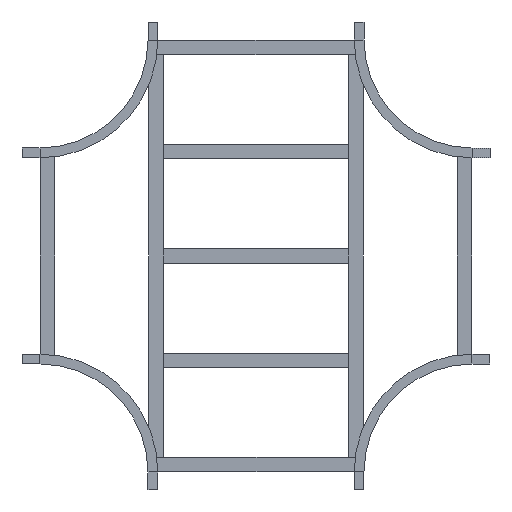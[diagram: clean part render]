
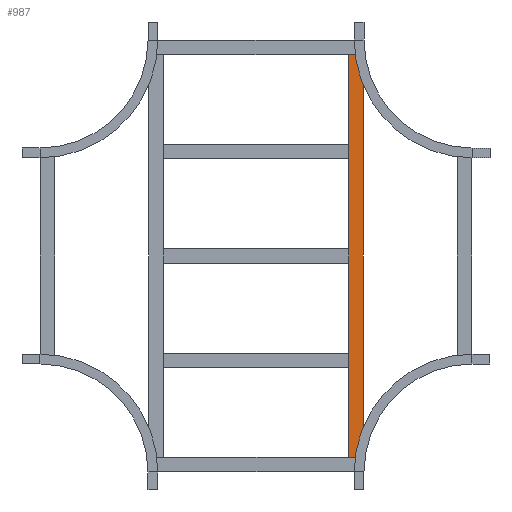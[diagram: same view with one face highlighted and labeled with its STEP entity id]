
A CAD part, front view. The second image highlights one B-rep face of the part: STEP entity #987.
In plain terms, the highlighted planar face has unit normal (0, -1, 0).
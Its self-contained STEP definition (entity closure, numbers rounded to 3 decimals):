
#10 = EDGE_CURVE ( 'NONE', #603, #1243, #324, .T. ) ;
#38 = CARTESIAN_POINT ( 'NONE',  ( 559.5, 0., 20.25 ) ) ;
#83 = CARTESIAN_POINT ( 'NONE',  ( 559.5, 0., 20.25 ) ) ;
#126 = DIRECTION ( 'NONE',  ( 0., 1., 0. ) ) ;
#152 = VERTEX_POINT ( 'NONE', #261 ) ;
#155 = EDGE_CURVE ( 'NONE', #431, #152, #1230, .T. ) ;
#237 = LINE ( 'NONE', #563, #1357 ) ;
#261 = CARTESIAN_POINT ( 'NONE',  ( -559.5, 0., 20.25 ) ) ;
#296 = LINE ( 'NONE', #83, #872 ) ;
#324 = LINE ( 'NONE', #851, #1059 ) ;
#363 = EDGE_CURVE ( 'NONE', #152, #1243, #237, .T. ) ;
#379 = VECTOR ( 'NONE', #1140, 1000. ) ;
#402 = ORIENTED_EDGE ( 'NONE', *, *, #1118, .F. ) ;
#431 = VERTEX_POINT ( 'NONE', #766 ) ;
#452 = PLANE ( 'NONE',  #934 ) ;
#552 = CARTESIAN_POINT ( 'NONE',  ( 559.5, 0., 20.25 ) ) ;
#563 = CARTESIAN_POINT ( 'NONE',  ( -559.5, 0., 20.25 ) ) ;
#590 = ORIENTED_EDGE ( 'NONE', *, *, #363, .T. ) ;
#603 = VERTEX_POINT ( 'NONE', #1340 ) ;
#631 = ORIENTED_EDGE ( 'NONE', *, *, #155, .T. ) ;
#766 = CARTESIAN_POINT ( 'NONE',  ( 559.5, 0., 20.25 ) ) ;
#851 = CARTESIAN_POINT ( 'NONE',  ( 559.5, 0., -20.25 ) ) ;
#872 = VECTOR ( 'NONE', #1162, 1000. ) ;
#923 = DIRECTION ( 'NONE',  ( 0., 0., 1. ) ) ;
#934 = AXIS2_PLACEMENT_3D ( 'NONE', #552, #126, #923 ) ;
#987 = ADVANCED_FACE ( 'NONE', ( #1103 ), #452, .F. ) ;
#1059 = VECTOR ( 'NONE', #1176, 1000. ) ;
#1096 = DIRECTION ( 'NONE',  ( 0., 0., -1. ) ) ;
#1103 = FACE_OUTER_BOUND ( 'NONE', #1301, .T. ) ;
#1118 = EDGE_CURVE ( 'NONE', #431, #603, #296, .T. ) ;
#1140 = DIRECTION ( 'NONE',  ( -1., 0., 0. ) ) ;
#1162 = DIRECTION ( 'NONE',  ( 0., 0., -1. ) ) ;
#1176 = DIRECTION ( 'NONE',  ( -1., 0., 0. ) ) ;
#1230 = LINE ( 'NONE', #38, #379 ) ;
#1243 = VERTEX_POINT ( 'NONE', #1254 ) ;
#1254 = CARTESIAN_POINT ( 'NONE',  ( -559.5, 0., -20.25 ) ) ;
#1277 = ORIENTED_EDGE ( 'NONE', *, *, #10, .F. ) ;
#1301 = EDGE_LOOP ( 'NONE', ( #590, #1277, #402, #631 ) ) ;
#1340 = CARTESIAN_POINT ( 'NONE',  ( 559.5, 0., -20.25 ) ) ;
#1357 = VECTOR ( 'NONE', #1096, 1000. ) ;
